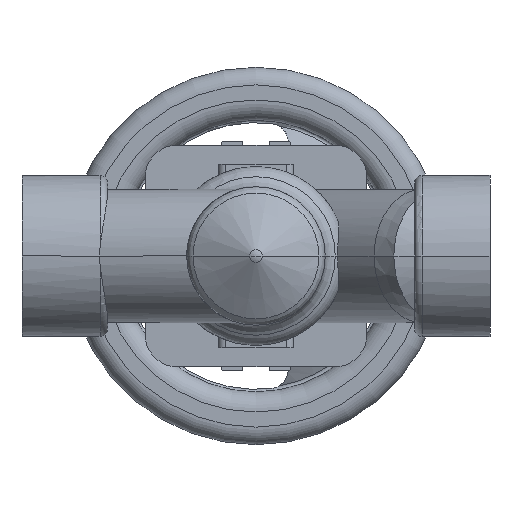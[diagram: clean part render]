
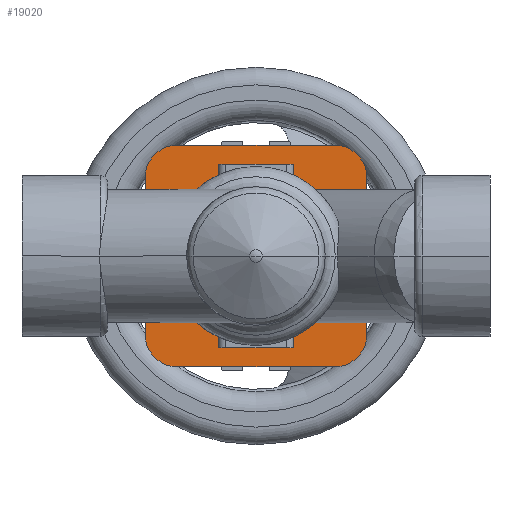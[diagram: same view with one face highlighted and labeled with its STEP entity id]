
A CAD part, front view. The second image highlights one B-rep face of the part: STEP entity #19020.
In plain terms, the highlighted planar face has unit normal (0, -1, 0).
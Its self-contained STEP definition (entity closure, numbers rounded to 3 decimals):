
#3360=CARTESIAN_POINT('',(78.,56.5,32.175));
#3370=VERTEX_POINT('',#3360);
#3890=CARTESIAN_POINT('',(108.,56.5,32.175));
#3900=VERTEX_POINT('',#3890);
#3930=CARTESIAN_POINT('',(93.,56.5,0.));
#3940=DIRECTION('',(0.,1.,0.));
#3950=DIRECTION('',(1.,0.,0.));
#3960=AXIS2_PLACEMENT_3D('',#3930,#3940,#3950);
#3970=CIRCLE('',#3960,35.5);
#3980=CARTESIAN_POINT('',(118.775,56.5,24.411));
#3990=VERTEX_POINT('',#3980);
#4000=EDGE_CURVE('',#3900,#3990,#3970,.T.);
#4950=CARTESIAN_POINT('',(57.5,56.5,0.));
#4960=VERTEX_POINT('',#4950);
#4990=CARTESIAN_POINT('',(93.,56.5,0.));
#5000=DIRECTION('',(0.,1.,0.));
#5010=DIRECTION('',(1.,0.,0.));
#5020=AXIS2_PLACEMENT_3D('',#4990,#5000,#5010);
#5030=CIRCLE('',#5020,35.5);
#5040=EDGE_CURVE('',#4960,#3370,#5030,.T.);
#9630=CARTESIAN_POINT('',(137.113,56.5,-12.24));
#9640=VERTEX_POINT('',#9630);
#9670=CARTESIAN_POINT('',(104.439,56.5,0.));
#9680=DIRECTION('',(0.,1.,0.));
#9690=DIRECTION('',(-1.,0.,0.));
#9700=AXIS2_PLACEMENT_3D('',#9670,#9680,#9690);
#9710=ELLIPSE('',#9700,36.839,26.5);
#9720=CARTESIAN_POINT('',(118.775,56.5,-24.411));
#9730=VERTEX_POINT('',#9720);
#9740=EDGE_CURVE('',#9640,#9730,#9710,.T.);
#14420=CARTESIAN_POINT('',(108.,56.5,-36.5));
#14430=VERTEX_POINT('',#14420);
#14460=CARTESIAN_POINT('',(116.375,56.5,-36.5));
#14470=DIRECTION('',(-1.,0.,0.));
#14480=VECTOR('',#14470,1.);
#14490=LINE('',#14460,#14480);
#14500=CARTESIAN_POINT('',(78.,56.5,-36.5));
#14510=VERTEX_POINT('',#14500);
#14520=EDGE_CURVE('',#14430,#14510,#14490,.T.);
#15660=CARTESIAN_POINT('',(78.,56.5,18.25));
#15670=DIRECTION('',(0.,0.,1.));
#15680=VECTOR('',#15670,1.);
#15690=LINE('',#15660,#15680);
#15700=CARTESIAN_POINT('',(78.,56.5,36.5));
#15710=VERTEX_POINT('',#15700);
#15720=EDGE_CURVE('',#3370,#15710,#15690,.T.);
#16510=CARTESIAN_POINT('',(108.,56.5,18.25));
#16520=DIRECTION('',(0.,0.,-1.));
#16530=VECTOR('',#16520,1.);
#16540=LINE('',#16510,#16530);
#16550=CARTESIAN_POINT('',(108.,56.5,-32.175));
#16560=VERTEX_POINT('',#16550);
#16570=EDGE_CURVE('',#16560,#14430,#16540,.T.);
#17750=CARTESIAN_POINT('',(139.75,56.5,0.));
#17760=DIRECTION('',(0.,-1.,0.));
#17770=DIRECTION('',(-1.,0.,0.));
#17780=AXIS2_PLACEMENT_3D('',#17750,#17760,#17770);
#17790=PLANE('',#17780);
#17800=CARTESIAN_POINT('',(137.113,56.5,-15.556));
#17810=DIRECTION('',(0.,0.,1.));
#17820=VECTOR('',#17810,1.);
#17830=LINE('',#17800,#17820);
#17840=CARTESIAN_POINT('',(137.113,56.5,-31.113));
#17850=VERTEX_POINT('',#17840);
#17860=EDGE_CURVE('',#17850,#9640,#17830,.T.);
#17870=ORIENTED_EDGE('',*,*,#17860,.T.);
#17880=CARTESIAN_POINT('',(124.113,56.5,-31.113));
#17890=DIRECTION('',(0.,-1.,0.));
#17900=DIRECTION('',(1.,0.,0.));
#17910=AXIS2_PLACEMENT_3D('',#17880,#17890,#17900);
#17920=CIRCLE('',#17910,13.);
#17930=CARTESIAN_POINT('',(124.113,56.5,-44.113));
#17940=VERTEX_POINT('',#17930);
#17950=EDGE_CURVE('',#17940,#17850,#17920,.T.);
#17960=ORIENTED_EDGE('',*,*,#17950,.T.);
#17970=CARTESIAN_POINT('',(100.819,56.5,-44.113));
#17980=DIRECTION('',(1.,0.,0.));
#17990=VECTOR('',#17980,1.);
#18000=LINE('',#17970,#17990);
#18010=CARTESIAN_POINT('',(61.887,56.5,-44.113));
#18020=VERTEX_POINT('',#18010);
#18030=EDGE_CURVE('',#18020,#17940,#18000,.T.);
#18040=ORIENTED_EDGE('',*,*,#18030,.T.);
#18050=CARTESIAN_POINT('',(61.887,56.5,-31.113));
#18060=DIRECTION('',(0.,-1.,0.));
#18070=DIRECTION('',(0.,0.,-1.));
#18080=AXIS2_PLACEMENT_3D('',#18050,#18060,#18070);
#18090=CIRCLE('',#18080,13.);
#18100=CARTESIAN_POINT('',(48.887,56.5,-31.113));
#18110=VERTEX_POINT('',#18100);
#18120=EDGE_CURVE('',#18110,#18020,#18090,.T.);
#18130=ORIENTED_EDGE('',*,*,#18120,.T.);
#18140=CARTESIAN_POINT('',(48.887,56.5,15.556));
#18150=DIRECTION('',(0.,0.,-1.));
#18160=VECTOR('',#18150,1.);
#18170=LINE('',#18140,#18160);
#18180=CARTESIAN_POINT('',(48.887,56.5,31.113));
#18190=VERTEX_POINT('',#18180);
#18200=EDGE_CURVE('',#18190,#18110,#18170,.T.);
#18210=ORIENTED_EDGE('',*,*,#18200,.T.);
#18220=CARTESIAN_POINT('',(61.887,56.5,31.113));
#18230=DIRECTION('',(0.,-1.,0.));
#18240=DIRECTION('',(-1.,0.,0.));
#18250=AXIS2_PLACEMENT_3D('',#18220,#18230,#18240);
#18260=CIRCLE('',#18250,13.);
#18270=CARTESIAN_POINT('',(61.887,56.5,44.113));
#18280=VERTEX_POINT('',#18270);
#18290=EDGE_CURVE('',#18280,#18190,#18260,.T.);
#18300=ORIENTED_EDGE('',*,*,#18290,.T.);
#18310=CARTESIAN_POINT('',(131.931,56.5,44.113));
#18320=DIRECTION('',(-1.,0.,0.));
#18330=VECTOR('',#18320,1.);
#18340=LINE('',#18310,#18330);
#18350=CARTESIAN_POINT('',(124.113,56.5,44.113));
#18360=VERTEX_POINT('',#18350);
#18370=EDGE_CURVE('',#18360,#18280,#18340,.T.);
#18380=ORIENTED_EDGE('',*,*,#18370,.T.);
#18390=CARTESIAN_POINT('',(124.113,56.5,31.113));
#18400=DIRECTION('',(0.,-1.,0.));
#18410=DIRECTION('',(0.,0.,1.));
#18420=AXIS2_PLACEMENT_3D('',#18390,#18400,#18410);
#18430=CIRCLE('',#18420,13.);
#18440=CARTESIAN_POINT('',(137.113,56.5,31.113));
#18450=VERTEX_POINT('',#18440);
#18460=EDGE_CURVE('',#18450,#18360,#18430,.T.);
#18470=ORIENTED_EDGE('',*,*,#18460,.T.);
#18480=CARTESIAN_POINT('',(137.113,56.5,-15.556));
#18490=DIRECTION('',(0.,0.,1.));
#18500=VECTOR('',#18490,1.);
#18510=LINE('',#18480,#18500);
#18520=CARTESIAN_POINT('',(137.113,56.5,12.24));
#18530=VERTEX_POINT('',#18520);
#18540=EDGE_CURVE('',#18530,#18450,#18510,.T.);
#18550=ORIENTED_EDGE('',*,*,#18540,.T.);
#18560=CARTESIAN_POINT('',(104.439,56.5,0.));
#18570=DIRECTION('',(0.,1.,0.));
#18580=DIRECTION('',(-1.,0.,0.));
#18590=AXIS2_PLACEMENT_3D('',#18560,#18570,#18580);
#18600=ELLIPSE('',#18590,36.839,26.5);
#18610=EDGE_CURVE('',#3990,#18530,#18600,.T.);
#18620=ORIENTED_EDGE('',*,*,#18610,.T.);
#18630=ORIENTED_EDGE('',*,*,#4000,.T.);
#18640=CARTESIAN_POINT('',(108.,56.5,18.25));
#18650=DIRECTION('',(0.,0.,-1.));
#18660=VECTOR('',#18650,1.);
#18670=LINE('',#18640,#18660);
#18680=CARTESIAN_POINT('',(108.,56.5,36.5));
#18690=VERTEX_POINT('',#18680);
#18700=EDGE_CURVE('',#18690,#3900,#18670,.T.);
#18710=ORIENTED_EDGE('',*,*,#18700,.T.);
#18720=CARTESIAN_POINT('',(116.375,56.5,36.5));
#18730=DIRECTION('',(1.,0.,0.));
#18740=VECTOR('',#18730,1.);
#18750=LINE('',#18720,#18740);
#18760=EDGE_CURVE('',#15710,#18690,#18750,.T.);
#18770=ORIENTED_EDGE('',*,*,#18760,.T.);
#18780=ORIENTED_EDGE('',*,*,#15720,.T.);
#18790=ORIENTED_EDGE('',*,*,#5040,.T.);
#18800=CARTESIAN_POINT('',(78.,56.5,-32.175));
#18810=VERTEX_POINT('',#18800);
#18820=EDGE_CURVE('',#18810,#4960,#5030,.T.);
#18830=ORIENTED_EDGE('',*,*,#18820,.T.);
#18840=CARTESIAN_POINT('',(78.,56.5,18.25));
#18850=DIRECTION('',(0.,0.,1.));
#18860=VECTOR('',#18850,1.);
#18870=LINE('',#18840,#18860);
#18880=EDGE_CURVE('',#14510,#18810,#18870,.T.);
#18890=ORIENTED_EDGE('',*,*,#18880,.T.);
#18900=ORIENTED_EDGE('',*,*,#14520,.T.);
#18910=ORIENTED_EDGE('',*,*,#16570,.T.);
#18920=CARTESIAN_POINT('',(93.,56.5,0.));
#18930=DIRECTION('',(0.,1.,0.));
#18940=DIRECTION('',(1.,0.,0.));
#18950=AXIS2_PLACEMENT_3D('',#18920,#18930,#18940);
#18960=CIRCLE('',#18950,35.5);
#18970=EDGE_CURVE('',#9730,#16560,#18960,.T.);
#18980=ORIENTED_EDGE('',*,*,#18970,.T.);
#18990=ORIENTED_EDGE('',*,*,#9740,.T.);
#19000=EDGE_LOOP('',(#18990,#18980,#18910,#18900,#18890,#18830,#18790,
#18780,#18770,#18710,#18630,#18620,#18550,#18470,#18380,#18300,#18210,
#18130,#18040,#17960,#17870));
#19010=FACE_OUTER_BOUND('',#19000,.T.);
#19020=ADVANCED_FACE('',(#19010),#17790,.T.);
